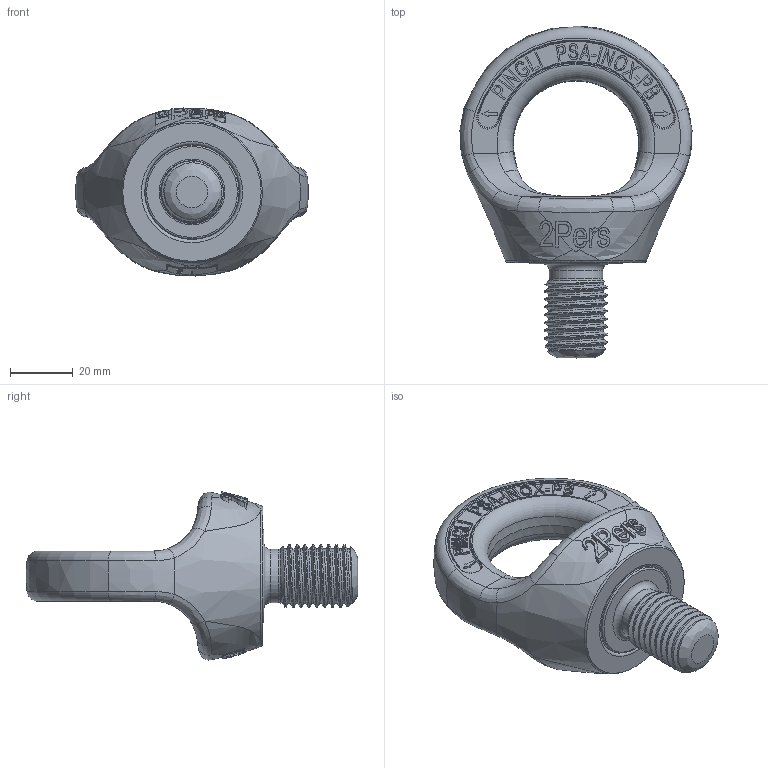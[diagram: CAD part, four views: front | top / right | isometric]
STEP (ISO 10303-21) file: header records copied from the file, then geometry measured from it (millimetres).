
FILE_DESCRIPTION(/* description */ (''),/* implementation_level */ '2;1');
FILE_NAME(/* name */ 'PB-M20-INOX.prt.stp',/* time_stamp */ '2024-06-25T10:36:55+08:00',/* author */ (''),/* organization */ (''),/* preprocessor_version */ 'ST-DEVELOPER v16',/* originating_system */ 'SIEMENS PLM Software NX 10.0',/* authorisation */ '');
FILE_SCHEMA (('CONFIG_CONTROL_DESIGN'));
Length unit declared in the file: millimetre
Products named in the file (3): INOX-G-M20; M20-M-1; PB-M20-INOX
Assembly tree (2 placements, depth 2):
  PB-M20-INOX
    M20-M-1
    INOX-G-M20
Bounding box: 74.06 x 105.89 x 53.59 mm (x, y, z)
Volume: 83956.8 mm3; surface area: 23276.8 mm2
Topology: 2 solids, 2 shells, 1015 faces, 2659 edges, 1740 vertices
Faces by surface type: plane 465, extrusion 364, bspline 106, cylinder 33, torus 32, cone 14, sphere 1
Full cylindrical faces by diameter (mm): 17 x1, 30 x1, 30.3 x2, 38 x1, 38.6 x1
Entity records: 39711 total; most frequent: CARTESIAN_POINT 17368, ORIENTED_EDGE 5230, DIRECTION 3023, EDGE_CURVE 2615, VERTEX_POINT 1726, B_SPLINE_CURVE_WITH_KNOTS 1636, VECTOR 1487, EDGE_LOOP 1139
